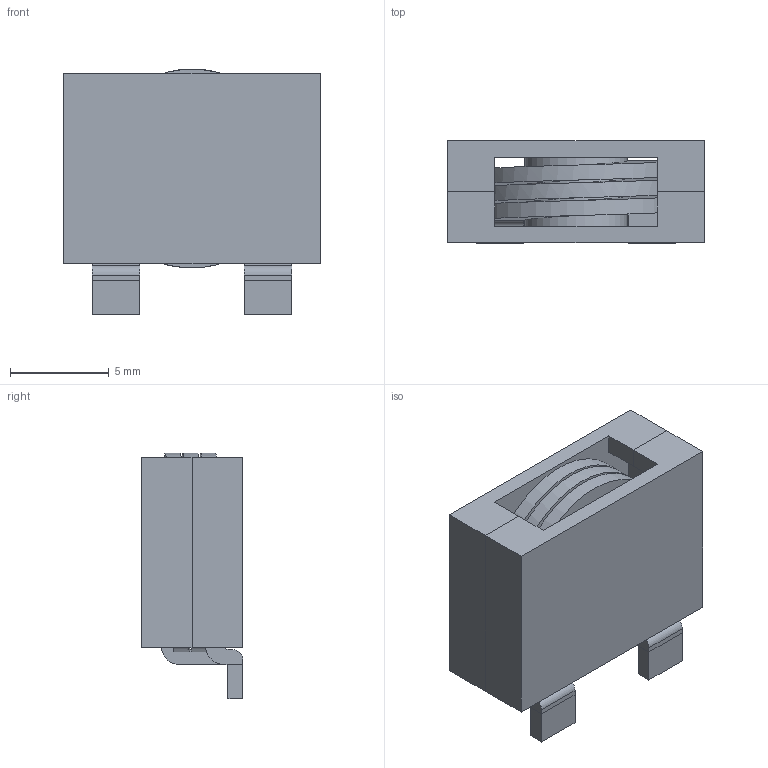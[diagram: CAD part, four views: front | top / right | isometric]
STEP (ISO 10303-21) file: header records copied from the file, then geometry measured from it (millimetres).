
FILE_DESCRIPTION (( 'STEP AP214' ), '1' );
FILE_NAME ('CWS-5322B-REV.D.STEP', '2019-08-01T20:41:14', ( '' ), ( '' ), 'SwSTEP 2.0', 'SolidWorks 2015', '' );
FILE_SCHEMA (( 'AUTOMOTIVE_DESIGN' ));
Length unit declared in the file: inch
Products named in the file (7): CWS-5322B coil; CWS-5322B-CASE; CWS-5322B-REV.D
Assembly tree (4 placements, depth 2):
  CWS-5322B-REV.D
    CWS-5322B coil
  CWS-5322B-REV.D
    CWS-5322B-CASE  x2
    CWS-5322B coil
  CWS-5322B-CASE
  CWS-5322B-CASE
Bounding box: 13.02 x 5.16 x 12.48 mm (x, y, z)
Volume: 505.7 mm3; surface area: 1316.3 mm2
Topology: 5 solids, 5 shells, 68 faces, 173 edges, 114 vertices
Faces by surface type: plane 56, cylinder 8, bspline 4
Full cylindrical faces by diameter (mm): 5.2 x2
Entity records: 2481 total; most frequent: CARTESIAN_POINT 879, ORIENTED_EDGE 264, DIRECTION 248, EDGE_CURVE 132, VECTOR 104, LINE 104, VERTEX_POINT 86, AXIS2_PLACEMENT_3D 72
